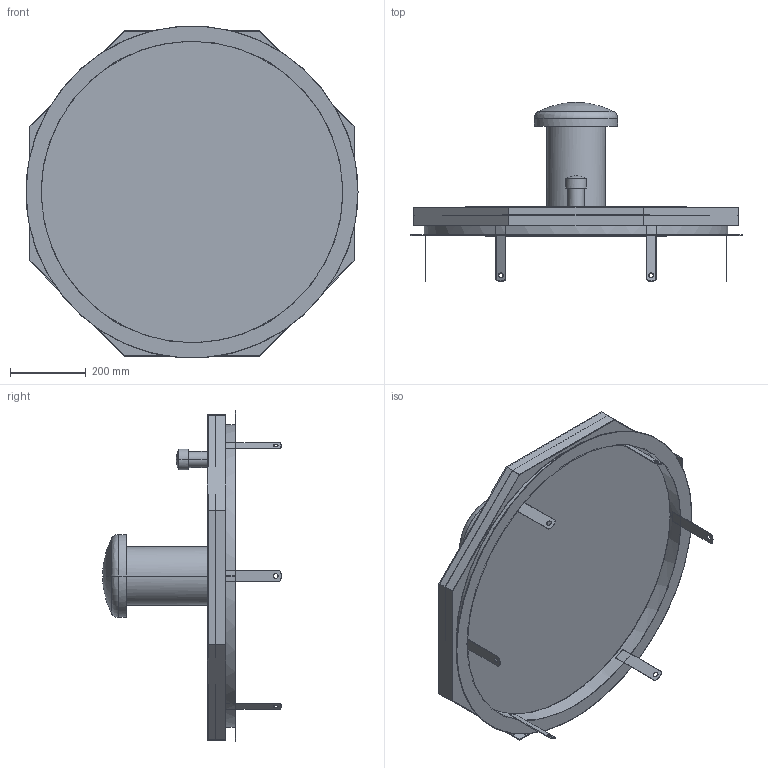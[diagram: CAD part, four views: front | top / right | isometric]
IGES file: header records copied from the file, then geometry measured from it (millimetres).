
Start section:  PTC IGES file: 017_000107.igs
Global section: file name: 017_000107.igs; native system: Creo Parametric by Parametric Technology Corporation; preprocessor: 2017170; author: wj; organization: Unknown; date: 20180906.123349; units: millimetre
Bounding box: 875 x 471.25 x 873.34 mm (x, y, z)
Surface area: 3331171.3 mm2 (no closed solid volume)
Topology: 0 solids, 0 shells, 102 faces, 536 edges, 532 vertices
Faces by surface type: bspline 64, revolution 38
